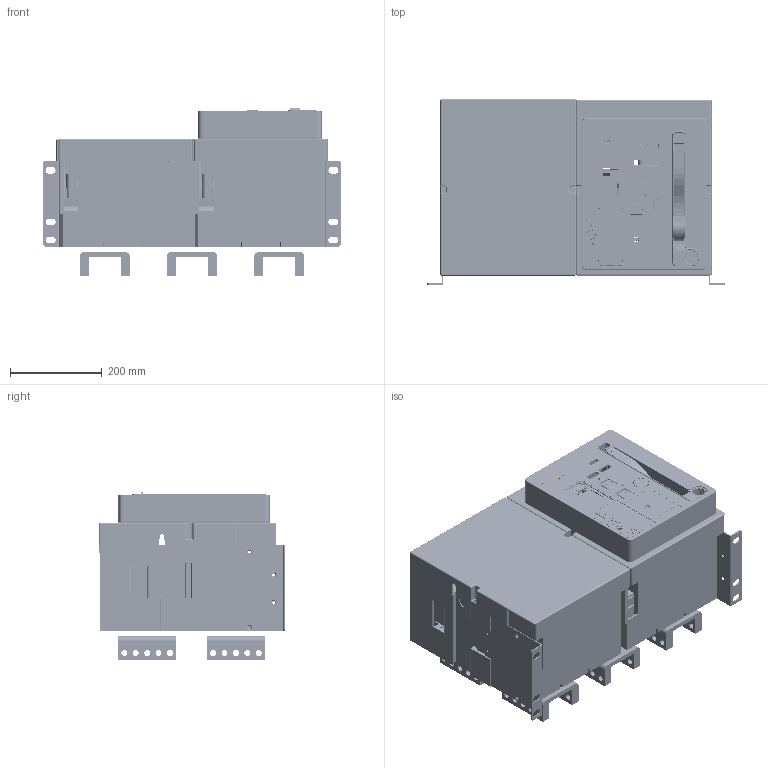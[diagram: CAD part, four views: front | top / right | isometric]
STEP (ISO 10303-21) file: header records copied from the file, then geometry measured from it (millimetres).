
FILE_DESCRIPTION((''),'2;1');
FILE_NAME('HG_20_C503V_FIX_ASM_ASM_ASM','2019-03-29T',('HHI'),(''),'PRO/ENGINEER BY PARAMETRIC TECHNOLOGY CORPORATION, 2012453','PRO/ENGINEER BY PARAMETRIC TECHNOLOGY CORPORATION, 2012453','');
FILE_SCHEMA(('CONFIG_CONTROL_DESIGN'));
Products named in the file (27): PRT0592; PRT0593; PRT0594; PRT0595; PRT0596; PRT0597; ASM0099_ASM; PRT0598; PRT0599; PRT0600; ASM0100_ASM; PRT0601; PRT0602; ASM0098_ASM; PRT0603; ASM0097_ASM; PRT0604; PRT0605; PRT0606; ASM0096_ASM; PRT0607; C503V_FIX_ASM_2_ASM_ASM; PRT0608; PRT0609; PRT0610; ASM0095_ASM; HG_20_C503V_FIX_ASM_ASM_ASM
Assembly tree (38 placements, depth 8):
  HG_20_C503V_FIX_ASM_ASM_ASM
    ASM0095_ASM
      C503V_FIX_ASM_2_ASM_ASM
        ASM0096_ASM
          PRT0592  x2
          PRT0593  x2
          ASM0097_ASM
            ASM0098_ASM
              ASM0099_ASM
                PRT0594
                PRT0595
                PRT0596
                PRT0597
              ASM0100_ASM
                PRT0598
                PRT0599
                PRT0600
              PRT0601
              PRT0602
            PRT0603
          PRT0604  x6
          PRT0605
          PRT0606
        PRT0607  x6
      PRT0608
      PRT0609
      PRT0610
Bounding box: 649.4 x 406 x 366.23 mm (x, y, z)
Volume: 13532386.8 mm3; surface area: 4522984.2 mm2
Topology: 31 solids, 56 shells, 10040 faces, 28372 edges, 18671 vertices
Faces by surface type: plane 6531, cylinder 2750, torus 259, extrusion 173, cone 163, sphere 89, bspline 75
Entity records: 234009 total; most frequent: CARTESIAN_POINT 48668, ORIENTED_EDGE 39326, DIRECTION 37311, EDGE_CURVE 19806, VECTOR 14491, LINE 14318, VERTEX_POINT 13056, AXIS2_PLACEMENT_3D 11410
